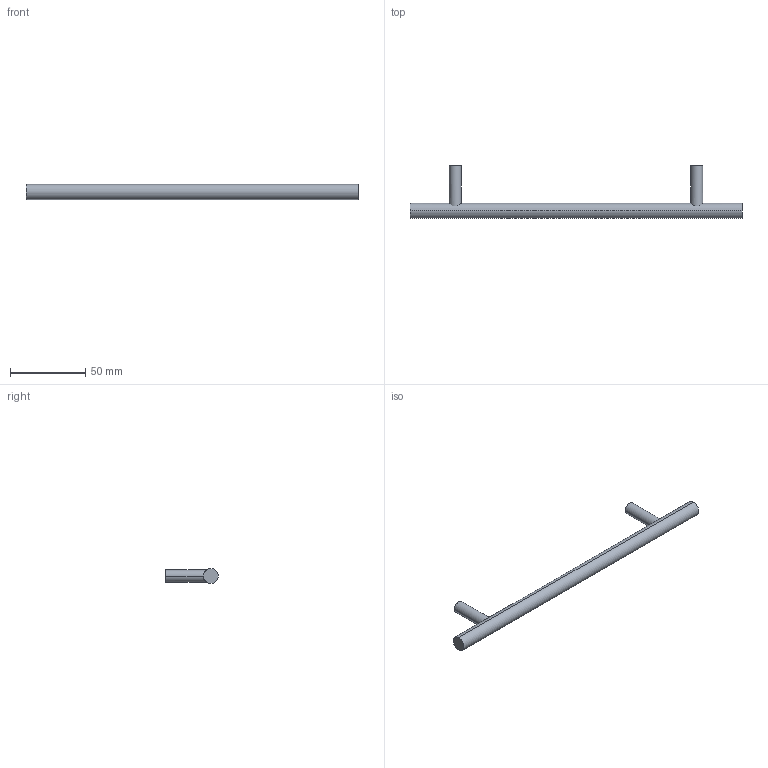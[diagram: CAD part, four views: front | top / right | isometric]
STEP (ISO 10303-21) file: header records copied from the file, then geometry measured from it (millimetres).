
FILE_DESCRIPTION( ( '' ), '1' );
FILE_NAME( 'D:/1.AUTOCAD EXPORT/Group 10/sheet_10_1/9070978.stp', '2013-10-21T08:31:36', ( '' ), ( '' ), ' ', ' ', ' ' );
FILE_SCHEMA( ( 'automotive_design' ) );
Length unit declared in the file: millimetre
Products named in the file (1): 1
Bounding box: 220 x 35 x 10 mm (x, y, z)
Volume: 19534.8 mm3; surface area: 8662.8 mm2
Topology: 1 solids, 1 shells, 16 faces, 32 edges, 22 vertices
Faces by surface type: cylinder 10, plane 6
Entity records: 972 total; most frequent: CARTESIAN_POINT 205, DIRECTION 76, STYLED_ITEM 71, PRESENTATION_STYLE_ASSIGNMENT 71, COLOUR_RGB 71, ORIENTED_EDGE 64, AXIS2_PLACEMENT_3D 33, EDGE_CURVE 32
